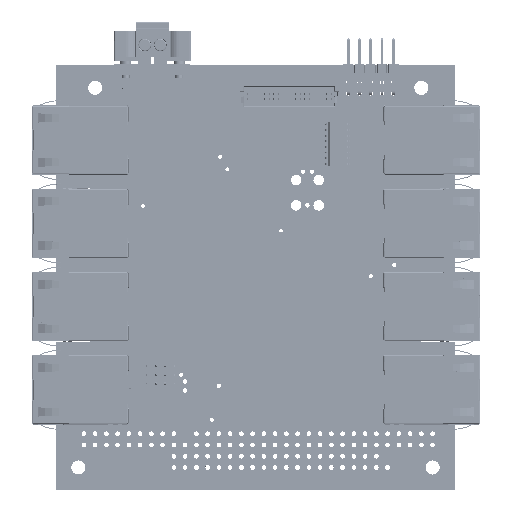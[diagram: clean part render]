
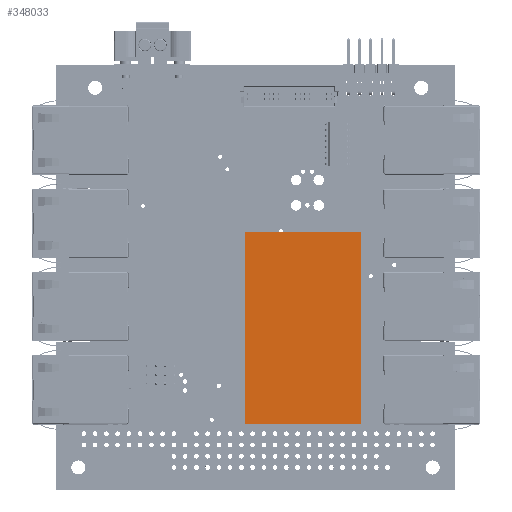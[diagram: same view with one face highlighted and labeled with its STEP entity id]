
A CAD part, top view. The second image highlights one B-rep face of the part: STEP entity #348033.
In plain terms, the highlighted planar face has unit normal (0, 0, 1) as drawn and (0, 1, 0) by its records, which use the part's own axes.
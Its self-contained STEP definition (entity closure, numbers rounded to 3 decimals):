
#347920 = VERTEX_POINT('',#347921);
#347921 = CARTESIAN_POINT('',(21.6,11.25,-13.125));
#347928 = PLANE('',#347929);
#347929 = AXIS2_PLACEMENT_3D('',#347930,#347931,#347932);
#347930 = CARTESIAN_POINT('',(13.125,5.75,13.125));
#347931 = DIRECTION('',(-0.544,0.839,0.));
#347932 = DIRECTION('',(-0.839,-0.544,0.));
#347940 = PLANE('',#347941);
#347941 = AXIS2_PLACEMENT_3D('',#347942,#347943,#347944);
#347942 = CARTESIAN_POINT('',(0.,-2.768,-13.125
    ));
#347943 = DIRECTION('',(0.,0.,1.));
#347944 = DIRECTION('',(1.,0.,0.));
#347952 = EDGE_CURVE('',#347953,#347920,#347955,.T.);
#347953 = VERTEX_POINT('',#347954);
#347954 = CARTESIAN_POINT('',(21.6,11.25,13.125));
#347955 = SURFACE_CURVE('',#347956,(#347960,#347967),.PCURVE_S1.);
#347956 = LINE('',#347957,#347958);
#347957 = CARTESIAN_POINT('',(21.6,11.25,13.125));
#347958 = VECTOR('',#347959,1.);
#347959 = DIRECTION('',(0.,0.,-1.));
#347960 = PCURVE('',#347928,#347961);
#347961 = DEFINITIONAL_REPRESENTATION('',(#347962),#347966);
#347962 = LINE('',#347963,#347964);
#347963 = CARTESIAN_POINT('',(-10.103,0.));
#347964 = VECTOR('',#347965,1.);
#347965 = DIRECTION('',(0.,-1.));
#347966 = ( GEOMETRIC_REPRESENTATION_CONTEXT(2) 
PARAMETRIC_REPRESENTATION_CONTEXT() REPRESENTATION_CONTEXT('2D SPACE',''
  ) );
#347967 = PCURVE('',#347968,#347973);
#347968 = PLANE('',#347969);
#347969 = AXIS2_PLACEMENT_3D('',#347970,#347971,#347972);
#347970 = CARTESIAN_POINT('',(-21.6,11.25,13.125));
#347971 = DIRECTION('',(0.,-1.,0.));
#347972 = DIRECTION('',(0.,0.,-1.));
#347973 = DEFINITIONAL_REPRESENTATION('',(#347974),#347978);
#347974 = LINE('',#347975,#347976);
#347975 = CARTESIAN_POINT('',(0.,43.2));
#347976 = VECTOR('',#347977,1.);
#347977 = DIRECTION('',(1.,0.));
#347978 = ( GEOMETRIC_REPRESENTATION_CONTEXT(2) 
PARAMETRIC_REPRESENTATION_CONTEXT() REPRESENTATION_CONTEXT('2D SPACE',''
  ) );
#347996 = PLANE('',#347997);
#347997 = AXIS2_PLACEMENT_3D('',#347998,#347999,#348000);
#347998 = CARTESIAN_POINT('',(0.,-2.768,13.125)
  );
#347999 = DIRECTION('',(0.,0.,1.));
#348000 = DIRECTION('',(1.,0.,0.));
#348033 = ADVANCED_FACE('',(#348034),#347968,.F.);
#348034 = FACE_BOUND('',#348035,.T.);
#348035 = EDGE_LOOP('',(#348036,#348059,#348087,#348108));
#348036 = ORIENTED_EDGE('',*,*,#348037,.T.);
#348037 = EDGE_CURVE('',#347920,#348038,#348040,.T.);
#348038 = VERTEX_POINT('',#348039);
#348039 = CARTESIAN_POINT('',(-21.6,11.25,-13.125));
#348040 = SURFACE_CURVE('',#348041,(#348045,#348052),.PCURVE_S1.);
#348041 = LINE('',#348042,#348043);
#348042 = CARTESIAN_POINT('',(-21.6,11.25,-13.125));
#348043 = VECTOR('',#348044,1.);
#348044 = DIRECTION('',(-1.,0.,0.));
#348045 = PCURVE('',#347968,#348046);
#348046 = DEFINITIONAL_REPRESENTATION('',(#348047),#348051);
#348047 = LINE('',#348048,#348049);
#348048 = CARTESIAN_POINT('',(26.25,0.));
#348049 = VECTOR('',#348050,1.);
#348050 = DIRECTION('',(0.,-1.));
#348051 = ( GEOMETRIC_REPRESENTATION_CONTEXT(2) 
PARAMETRIC_REPRESENTATION_CONTEXT() REPRESENTATION_CONTEXT('2D SPACE',''
  ) );
#348052 = PCURVE('',#347940,#348053);
#348053 = DEFINITIONAL_REPRESENTATION('',(#348054),#348058);
#348054 = LINE('',#348055,#348056);
#348055 = CARTESIAN_POINT('',(-21.6,14.018));
#348056 = VECTOR('',#348057,1.);
#348057 = DIRECTION('',(-1.,0.));
#348058 = ( GEOMETRIC_REPRESENTATION_CONTEXT(2) 
PARAMETRIC_REPRESENTATION_CONTEXT() REPRESENTATION_CONTEXT('2D SPACE',''
  ) );
#348059 = ORIENTED_EDGE('',*,*,#348060,.F.);
#348060 = EDGE_CURVE('',#348061,#348038,#348063,.T.);
#348061 = VERTEX_POINT('',#348062);
#348062 = CARTESIAN_POINT('',(-21.6,11.25,13.125));
#348063 = SURFACE_CURVE('',#348064,(#348068,#348075),.PCURVE_S1.);
#348064 = LINE('',#348065,#348066);
#348065 = CARTESIAN_POINT('',(-21.6,11.25,13.125));
#348066 = VECTOR('',#348067,1.);
#348067 = DIRECTION('',(0.,0.,-1.));
#348068 = PCURVE('',#347968,#348069);
#348069 = DEFINITIONAL_REPRESENTATION('',(#348070),#348074);
#348070 = LINE('',#348071,#348072);
#348071 = CARTESIAN_POINT('',(0.,0.));
#348072 = VECTOR('',#348073,1.);
#348073 = DIRECTION('',(1.,0.));
#348074 = ( GEOMETRIC_REPRESENTATION_CONTEXT(2) 
PARAMETRIC_REPRESENTATION_CONTEXT() REPRESENTATION_CONTEXT('2D SPACE',''
  ) );
#348075 = PCURVE('',#348076,#348081);
#348076 = PLANE('',#348077);
#348077 = AXIS2_PLACEMENT_3D('',#348078,#348079,#348080);
#348078 = CARTESIAN_POINT('',(-13.125,5.75,13.125));
#348079 = DIRECTION('',(0.544,0.839,0.));
#348080 = DIRECTION('',(-0.839,0.544,0.));
#348081 = DEFINITIONAL_REPRESENTATION('',(#348082),#348086);
#348082 = LINE('',#348083,#348084);
#348083 = CARTESIAN_POINT('',(10.103,0.));
#348084 = VECTOR('',#348085,1.);
#348085 = DIRECTION('',(0.,-1.));
#348086 = ( GEOMETRIC_REPRESENTATION_CONTEXT(2) 
PARAMETRIC_REPRESENTATION_CONTEXT() REPRESENTATION_CONTEXT('2D SPACE',''
  ) );
#348087 = ORIENTED_EDGE('',*,*,#348088,.F.);
#348088 = EDGE_CURVE('',#347953,#348061,#348089,.T.);
#348089 = SURFACE_CURVE('',#348090,(#348094,#348101),.PCURVE_S1.);
#348090 = LINE('',#348091,#348092);
#348091 = CARTESIAN_POINT('',(-21.6,11.25,13.125));
#348092 = VECTOR('',#348093,1.);
#348093 = DIRECTION('',(-1.,0.,0.));
#348094 = PCURVE('',#347968,#348095);
#348095 = DEFINITIONAL_REPRESENTATION('',(#348096),#348100);
#348096 = LINE('',#348097,#348098);
#348097 = CARTESIAN_POINT('',(0.,0.));
#348098 = VECTOR('',#348099,1.);
#348099 = DIRECTION('',(0.,-1.));
#348100 = ( GEOMETRIC_REPRESENTATION_CONTEXT(2) 
PARAMETRIC_REPRESENTATION_CONTEXT() REPRESENTATION_CONTEXT('2D SPACE',''
  ) );
#348101 = PCURVE('',#347996,#348102);
#348102 = DEFINITIONAL_REPRESENTATION('',(#348103),#348107);
#348103 = LINE('',#348104,#348105);
#348104 = CARTESIAN_POINT('',(-21.6,14.018));
#348105 = VECTOR('',#348106,1.);
#348106 = DIRECTION('',(-1.,0.));
#348107 = ( GEOMETRIC_REPRESENTATION_CONTEXT(2) 
PARAMETRIC_REPRESENTATION_CONTEXT() REPRESENTATION_CONTEXT('2D SPACE',''
  ) );
#348108 = ORIENTED_EDGE('',*,*,#347952,.T.);
